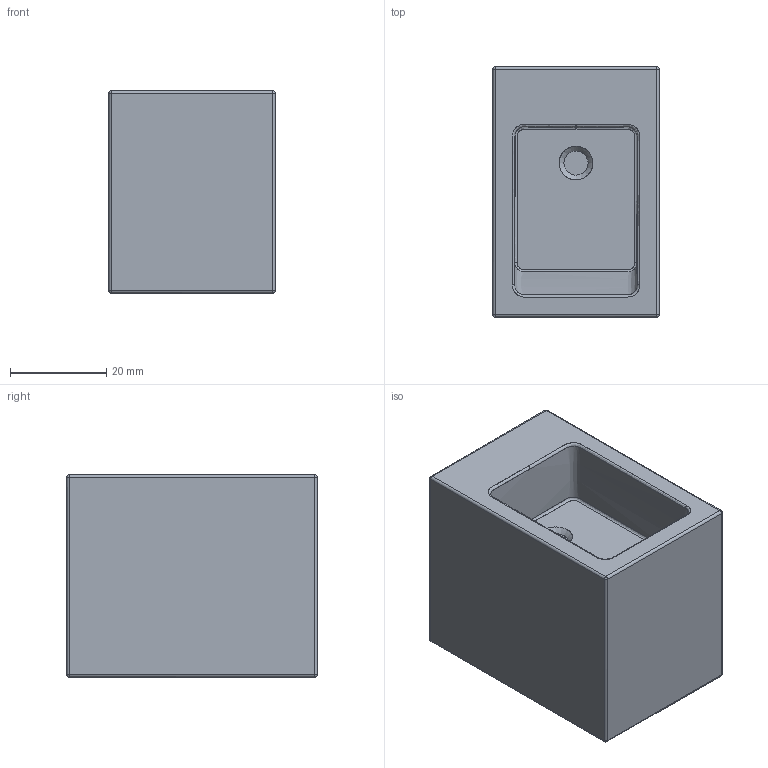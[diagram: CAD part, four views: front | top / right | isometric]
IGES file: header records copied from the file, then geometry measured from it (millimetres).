
Global section: file name: C:\Users\FULVIO\Desktop\Archivio Nic\Cool\Bidet Terra\Modello 3D\Cool Bidet Terra.igs; native system: Rhinoceros ( Mar  6 2018 ); preprocessor: Trout Lake IGES 012 Mar  6 2018; date: 200609.062049; units: millimetre
Bounding box: 34.5 x 52 x 42 mm (x, y, z)
Surface area: 12179.2 mm2 (no closed solid volume)
Topology: 0 solids, 0 shells, 36 faces, 295 edges, 295 vertices
Faces by surface type: bspline 36
